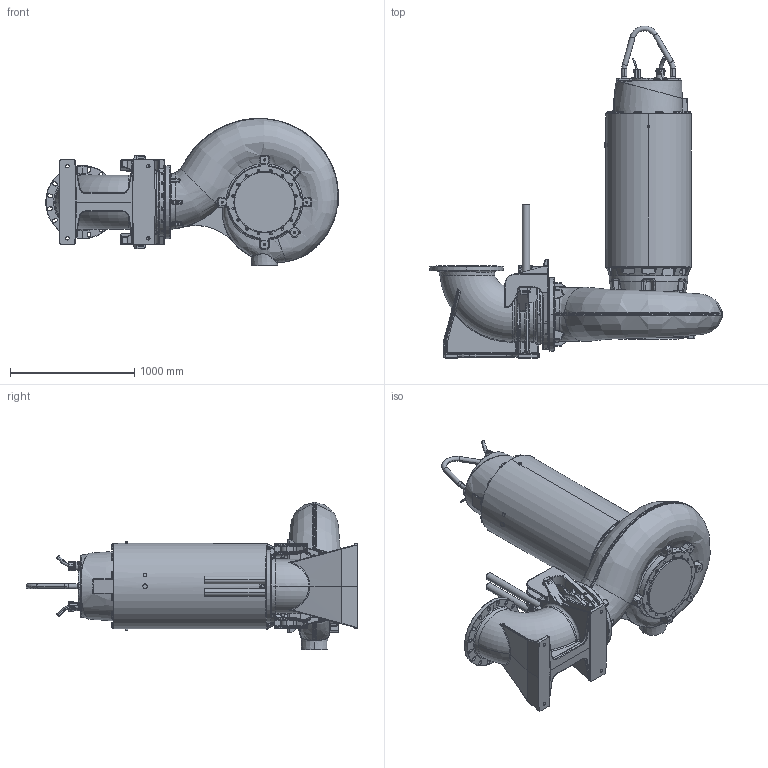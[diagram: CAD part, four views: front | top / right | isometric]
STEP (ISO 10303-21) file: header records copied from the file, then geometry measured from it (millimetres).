
FILE_DESCRIPTION (( 'STEP AP214' ), '1' );
FILE_NAME ('PE6_XFP400M-CH2_WET 2guide_C_NG2.STEP', '2017-03-23T08:17:10', ( '' ), ( '' ), 'SwSTEP 2.0', 'SolidWorks 2017', '' );
FILE_SCHEMA (( 'AUTOMOTIVE_DESIGN' ));
Length unit declared in the file: millimetre
Products named in the file (1): PE6_XFP400M-CH2_WET 2guide_C_NG2
Bounding box: 2353 x 2668.9 x 1184.25 mm (x, y, z)
Volume: 1131911345.1 mm3; surface area: 13623833.2 mm2
Topology: 4 solids, 31 shells, 5165 faces, 12646 edges, 7328 vertices
Faces by surface type: cylinder 1386, bspline 1279, plane 1232, torus 539, cone 480, sphere 249
Entity records: 301913 total; most frequent: CARTESIAN_POINT 134941, ORIENTED_EDGE 24582, DIRECTION 21155, EDGE_CURVE 12291, AXIS2_PLACEMENT_3D 8501, VERTEX_POINT 7322, EDGE_LOOP 5471, UNCERTAINTY_MEASURE_WITH_UNIT 5171
